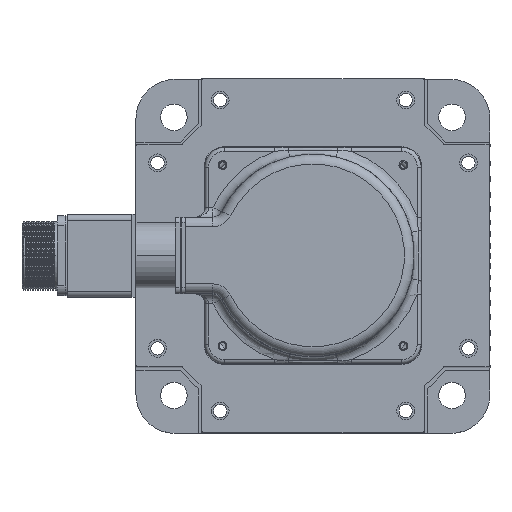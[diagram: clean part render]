
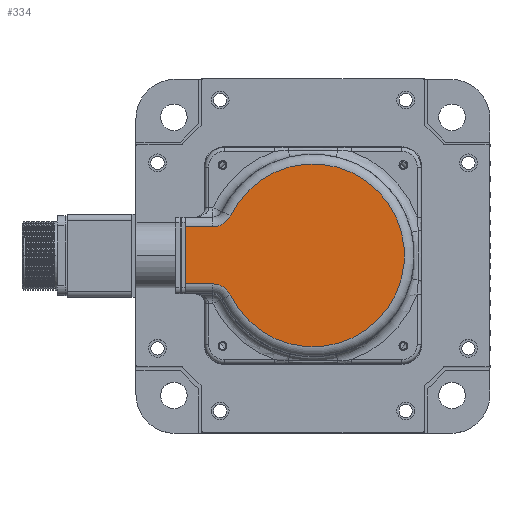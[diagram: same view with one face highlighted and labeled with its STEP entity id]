
A CAD part, top view. The second image highlights one B-rep face of the part: STEP entity #334.
In plain terms, the highlighted planar face has unit normal (0, 0, 1).
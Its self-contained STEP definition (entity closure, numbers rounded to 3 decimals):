
#120 = CARTESIAN_POINT ( 'NONE',  ( 0., 14.5, 422. ) ) ;
#334 = ADVANCED_FACE ( 'NONE', ( #3894 ), #6509, .T. ) ;
#945 = DIRECTION ( 'NONE',  ( 0., 0., 1. ) ) ;
#1540 = CIRCLE ( 'NONE', #27637, 46.5 ) ;
#3256 = EDGE_CURVE ( 'NONE', #9010, #23774, #26985, .T. ) ;
#3894 = FACE_OUTER_BOUND ( 'NONE', #10176, .T. ) ;
#4788 = VERTEX_POINT ( 'NONE', #21496 ) ;
#5438 = AXIS2_PLACEMENT_3D ( 'NONE', #29070, #8474, #28414 ) ;
#6509 = PLANE ( 'NONE',  #20624 ) ;
#7791 = EDGE_CURVE ( 'NONE', #20227, #4788, #1540, .T. ) ;
#8474 = DIRECTION ( 'NONE',  ( 0., 0., 1. ) ) ;
#8678 = CIRCLE ( 'NONE', #8753, 10. ) ;
#8753 = AXIS2_PLACEMENT_3D ( 'NONE', #26660, #14556, #9491 ) ;
#8869 = CARTESIAN_POINT ( 'NONE',  ( -41.901, -20.164, 422. ) ) ;
#9010 = VERTEX_POINT ( 'NONE', #23100 ) ;
#9205 = VECTOR ( 'NONE', #31416, 1000. ) ;
#9491 = DIRECTION ( 'NONE',  ( -1., 0., 0. ) ) ;
#9688 = ORIENTED_EDGE ( 'NONE', *, *, #27877, .F. ) ;
#10176 = EDGE_LOOP ( 'NONE', ( #9688, #20099, #10220, #11795, #31282, #13391 ) ) ;
#10220 = ORIENTED_EDGE ( 'NONE', *, *, #3256, .F. ) ;
#11795 = ORIENTED_EDGE ( 'NONE', *, *, #21766, .T. ) ;
#11842 = CARTESIAN_POINT ( 'NONE',  ( -50.912, -14.5, 422. ) ) ;
#12572 = DIRECTION ( 'NONE',  ( -1., 0., 0. ) ) ;
#13075 = VECTOR ( 'NONE', #27035, 1000. ) ;
#13391 = ORIENTED_EDGE ( 'NONE', *, *, #7791, .T. ) ;
#13548 = DIRECTION ( 'NONE',  ( -1., 0., 0. ) ) ;
#14049 = EDGE_CURVE ( 'NONE', #20227, #21668, #19544, .T. ) ;
#14556 = DIRECTION ( 'NONE',  ( 0., 0., 1. ) ) ;
#14953 = CARTESIAN_POINT ( 'NONE',  ( 0., 0., 422. ) ) ;
#17239 = DIRECTION ( 'NONE',  ( 0., 0., 1. ) ) ;
#17953 = LINE ( 'NONE', #120, #20941 ) ;
#19544 = CIRCLE ( 'NONE', #5438, 10. ) ;
#20099 = ORIENTED_EDGE ( 'NONE', *, *, #22232, .T. ) ;
#20227 = VERTEX_POINT ( 'NONE', #8869 ) ;
#20624 = AXIS2_PLACEMENT_3D ( 'NONE', #31022, #945, #13548 ) ;
#20941 = VECTOR ( 'NONE', #12572, 1000. ) ;
#21496 = CARTESIAN_POINT ( 'NONE',  ( -41.901, 20.164, 422. ) ) ;
#21668 = VERTEX_POINT ( 'NONE', #11842 ) ;
#21766 = EDGE_CURVE ( 'NONE', #9010, #21668, #24430, .T. ) ;
#22232 = EDGE_CURVE ( 'NONE', #30358, #23774, #17953, .T. ) ;
#23100 = CARTESIAN_POINT ( 'NONE',  ( -65., -14.5, 422. ) ) ;
#23774 = VERTEX_POINT ( 'NONE', #25999 ) ;
#24271 = CARTESIAN_POINT ( 'NONE',  ( -47.666, -14.5, 422. ) ) ;
#24430 = LINE ( 'NONE', #24271, #13075 ) ;
#25999 = CARTESIAN_POINT ( 'NONE',  ( -65., 14.5, 422. ) ) ;
#26660 = CARTESIAN_POINT ( 'NONE',  ( -50.912, 24.5, 422. ) ) ;
#26826 = CARTESIAN_POINT ( 'NONE',  ( -65., 0., 422. ) ) ;
#26985 = LINE ( 'NONE', #26826, #9205 ) ;
#27035 = DIRECTION ( 'NONE',  ( 1., 0., 0. ) ) ;
#27637 = AXIS2_PLACEMENT_3D ( 'NONE', #14953, #17239, #31953 ) ;
#27877 = EDGE_CURVE ( 'NONE', #30358, #4788, #8678, .T. ) ;
#28414 = DIRECTION ( 'NONE',  ( -1., 0., 0. ) ) ;
#29070 = CARTESIAN_POINT ( 'NONE',  ( -50.912, -24.5, 422. ) ) ;
#30358 = VERTEX_POINT ( 'NONE', #32129 ) ;
#31022 = CARTESIAN_POINT ( 'NONE',  ( 0., 0., 422. ) ) ;
#31282 = ORIENTED_EDGE ( 'NONE', *, *, #14049, .F. ) ;
#31416 = DIRECTION ( 'NONE',  ( 0., 1., 0. ) ) ;
#31953 = DIRECTION ( 'NONE',  ( -1., 0., 0. ) ) ;
#32129 = CARTESIAN_POINT ( 'NONE',  ( -50.912, 14.5, 422. ) ) ;
